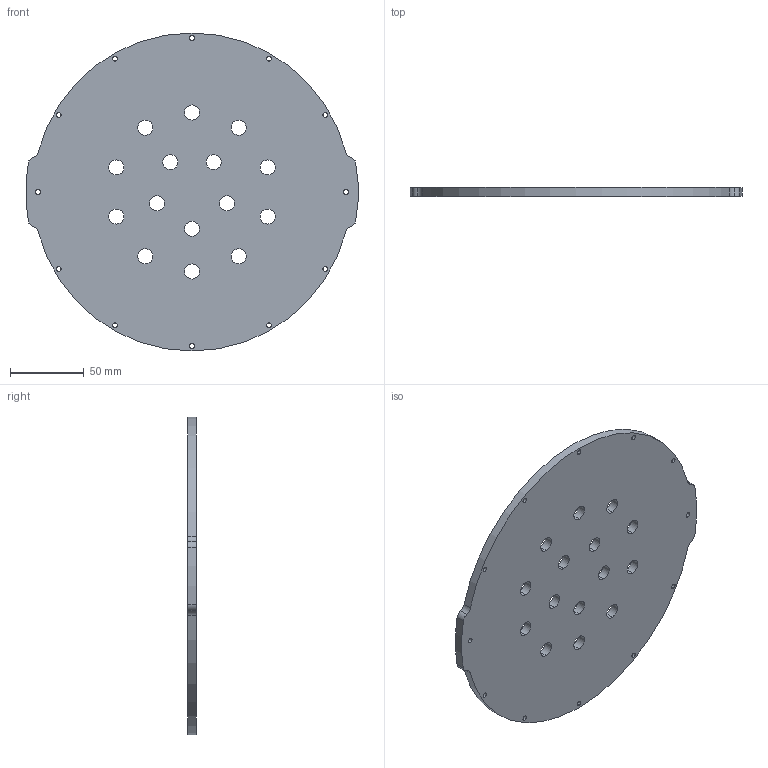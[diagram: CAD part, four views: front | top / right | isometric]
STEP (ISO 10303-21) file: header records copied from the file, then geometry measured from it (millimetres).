
FILE_DESCRIPTION (( 'STEP AP203' ), '1' );
FILE_NAME ('WTE8-M-END-CAP-15-10MM-X1A.STEP', '2017-05-12T17:05:11', ( '' ), ( '' ), 'SwSTEP 2.0', 'SolidWorks 2014', '' );
FILE_SCHEMA (( 'CONFIG_CONTROL_DESIGN' ));
Length unit declared in the file: millimetre
Products named in the file (1): WTE8-M-END-CAP-15-10MM-X1A
Bounding box: 225.52 x 6 x 215.9 mm (x, y, z)
Volume: 214520.9 mm3; surface area: 79276.1 mm2
Topology: 1 solids, 1 shells, 69 faces, 201 edges, 134 vertices
Faces by surface type: cylinder 67, plane 2
Entity records: 2554 total; most frequent: DIRECTION 475, CARTESIAN_POINT 405, ORIENTED_EDGE 402, AXIS2_PLACEMENT_3D 204, EDGE_CURVE 201, CIRCLE 134, VERTEX_POINT 134, EDGE_LOOP 123
